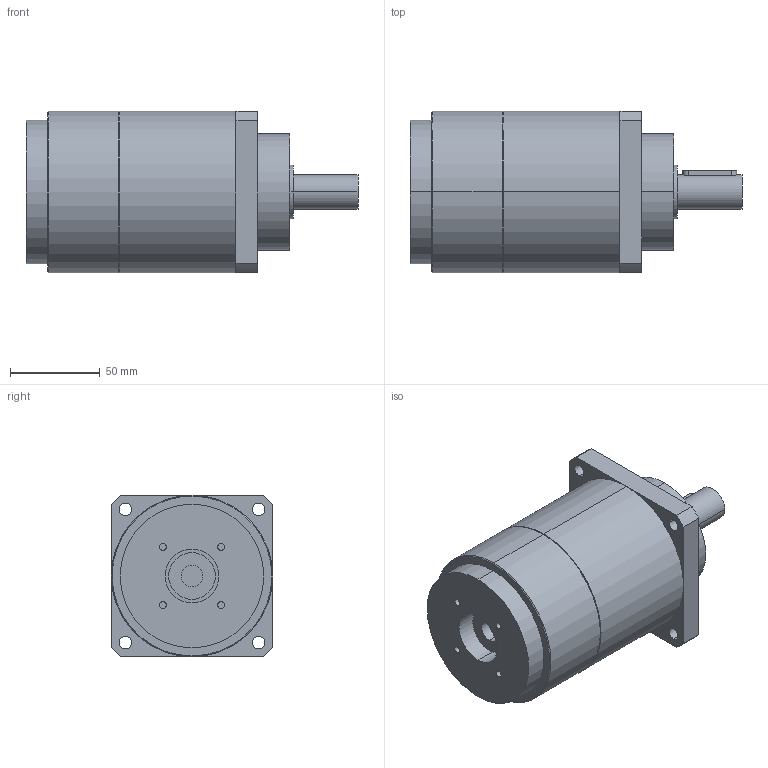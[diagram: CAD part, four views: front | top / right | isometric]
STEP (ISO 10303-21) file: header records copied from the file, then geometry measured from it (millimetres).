
FILE_DESCRIPTION(('CoCreate Modeling STEP Export'),'2;1');
FILE_NAME('GPT90_ig-9-12-16-20-25-28-35-40-50-70-100_19_B5T_12_P24.stp','2015-02-04T11:28:41',(''),(''),'CoCreate Modeling STEP processor for AP214 (Solid Model)','CoCreate Modeling 16.00C 25-Feb-2009 (C) Parametric Technology GmbH','');
FILE_SCHEMA(('AUTOMOTIVE_DESIGN { 1 0 10303 214 1 1 1 1 }'));
Length unit declared in the file: millimetre
Products named in the file (2): GPT90_ig-9-12-16-20-25-28-35-40-50-70-100_19_B5T_12_P24
Assembly tree (1 placements, depth 2):
  GPT90_ig-9-12-16-20-25-28-35-40-50-70-100_19_B5T_12_P24
    GPT90_ig-9-12-16-20-25-28-35-40-50-70-100_19_B5T_12_P24
Bounding box: 185 x 90 x 90 mm (x, y, z)
Volume: 882836.6 mm3; surface area: 63634.6 mm2
Topology: 1 solids, 1 shells, 72 faces, 183 edges, 126 vertices
Faces by surface type: cylinder 42, plane 26, cone 4
Entity records: 2318 total; most frequent: CARTESIAN_POINT 693, ORIENTED_EDGE 366, DIRECTION 272, EDGE_CURVE 183, VERTEX_POINT 126, AXIS2_PLACEMENT_3D 102, EDGE_LOOP 93, FACE_OUTER_BOUND 72
